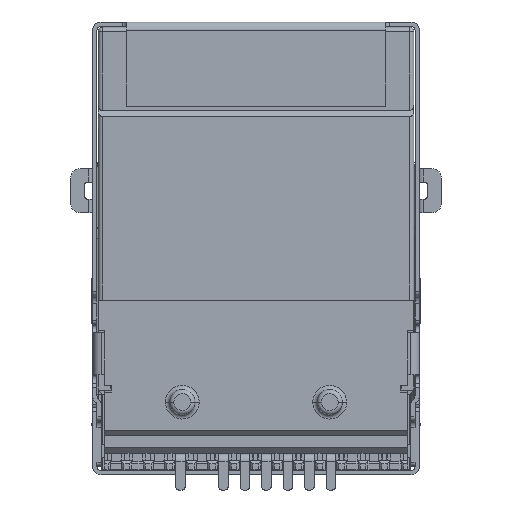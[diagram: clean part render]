
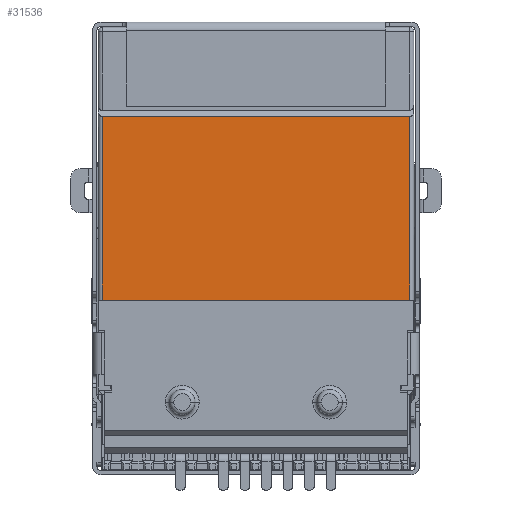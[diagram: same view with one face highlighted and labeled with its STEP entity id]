
A CAD part, front view. The second image highlights one B-rep face of the part: STEP entity #31536.
In plain terms, the highlighted planar face has unit normal (0, -1, 0).
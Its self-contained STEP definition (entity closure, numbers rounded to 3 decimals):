
#6066=DIRECTION('',(1.,0.,0.));
#6067=VECTOR('',#6066,14.6);
#6068=CARTESIAN_POINT('',(-7.3,0.,-12.95));
#6069=LINE('',#6068,#6067);
#6606=CARTESIAN_POINT('',(-7.3,0.,-4.25));
#6608=DIRECTION('',(0.,0.,-1.));
#6609=VECTOR('',#6608,8.7);
#6610=CARTESIAN_POINT('',(-7.3,0.,-4.25));
#6611=LINE('',#6610,#6609);
#6616=DIRECTION('',(1.,0.,0.));
#6617=VECTOR('',#6616,14.6);
#6618=CARTESIAN_POINT('',(-7.3,0.,-4.25));
#6619=LINE('',#6618,#6617);
#6620=DIRECTION('',(0.,0.,1.));
#6621=VECTOR('',#6620,8.7);
#6622=CARTESIAN_POINT('',(7.3,0.,-12.95));
#6623=LINE('',#6622,#6621);
#6624=CARTESIAN_POINT('',(7.3,0.,-4.25));
#20231=CARTESIAN_POINT('',(-7.3,0.,-12.95));
#20232=VERTEX_POINT('',#20231);
#20233=CARTESIAN_POINT('',(7.3,0.,-12.95));
#20234=VERTEX_POINT('',#20233);
#20307=VERTEX_POINT('',#6606);
#20308=VERTEX_POINT('',#6624);
#31524=CARTESIAN_POINT('',(0.,0.,-8.6));
#31525=DIRECTION('',(0.,1.,0.));
#31526=DIRECTION('',(0.,0.,-1.));
#31527=AXIS2_PLACEMENT_3D('',#31524,#31525,#31526);
#31528=PLANE('',#31527);
#31529=ORIENTED_EDGE('',*,*,#31517,.F.);
#31530=ORIENTED_EDGE('',*,*,#31506,.T.);
#31532=ORIENTED_EDGE('',*,*,#31531,.F.);
#31533=ORIENTED_EDGE('',*,*,#30655,.F.);
#31534=EDGE_LOOP('',(#31529,#31530,#31532,#31533));
#31535=FACE_OUTER_BOUND('',#31534,.F.);
#31536=ADVANCED_FACE('',(#31535),#31528,.F.);
#30655=EDGE_CURVE('',#20232,#20234,#6069,.T.);
#31506=EDGE_CURVE('',#20307,#20308,#6619,.T.);
#31517=EDGE_CURVE('',#20307,#20232,#6611,.T.);
#31531=EDGE_CURVE('',#20234,#20308,#6623,.T.);
